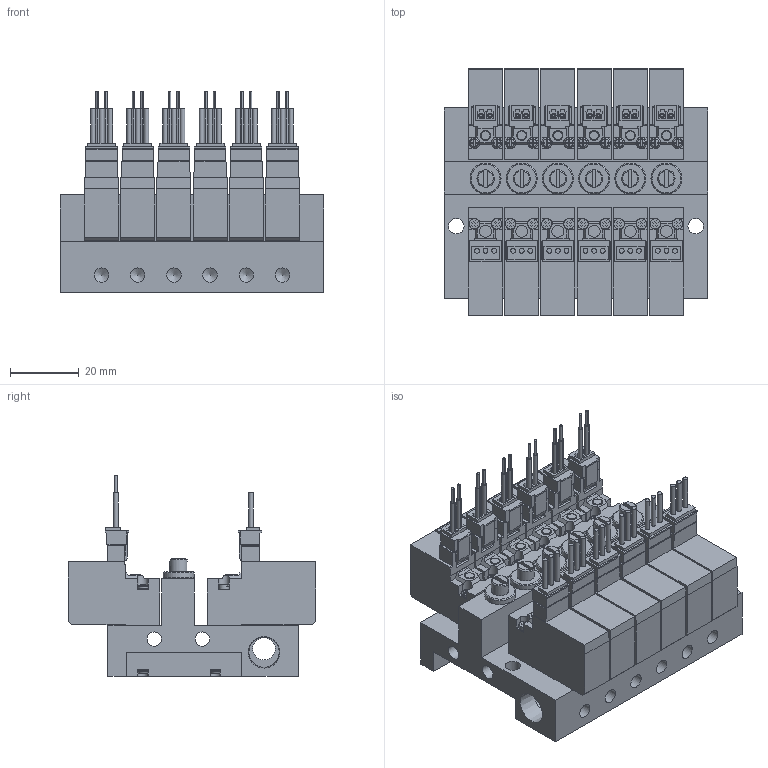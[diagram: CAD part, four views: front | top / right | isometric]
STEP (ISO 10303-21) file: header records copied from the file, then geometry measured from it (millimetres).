
FILE_DESCRIPTION(('STEP AP203'),'1');
FILE_NAME('1-L-4EZ-M06.stp','2025-05-09T01:26:20',(' '),(' '),'Spatial InterOp 3D',' ',' ');
FILE_SCHEMA(('CONFIG_CONTROL_DESIGN'));
Length unit declared in the file: millimetre
Products named in the file (68): PV1※1-L-4EZ-M06; BODY; PLATE; NEEDLE; BOLT; SOLENOID VALVE VOLTAGE PV; 42; 45; 48; 51; SOLENOID VALVE PV101-W
Assembly tree (67 placements, depth 3):
  PV1※1-L-4EZ-M06
    BODY
    PLATE
    PLATE
    NEEDLE
    BOLT
    BOLT
    BOLT
    BOLT
    BOLT
    BOLT
    SOLENOID VALVE VOLTAGE PV
      42
      45
      48
      51
    NEEDLE
    SOLENOID VALVE VOLTAGE PV
      42
      45
      48
      51
    NEEDLE
    SOLENOID VALVE VOLTAGE PV
      42
      45
      48
      51
    PLATE
    BOLT
    BOLT
    BOLT
    PLATE
    BOLT
    BOLT
    BOLT
    NEEDLE
    SOLENOID VALVE VOLTAGE PV
      42
      45
      48
      51
    NEEDLE
    SOLENOID VALVE VOLTAGE PV
      42
      45
      48
      51
    PLATE
    BOLT
    BOLT
    BOLT
    SOLENOID VALVE VOLTAGE PV
      42
      45
      48
      51
    NEEDLE
    PLATE
    BOLT
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Bounding box: 76.5 x 71.8 x 58.25 mm (x, y, z)
Volume: 125574.5 mm3; surface area: 64272.6 mm2
Topology: 61 solids, 61 shells, 2341 faces, 6536 edges, 4457 vertices
Faces by surface type: plane 1738, cylinder 409, torus 96, bspline 60, cone 38
Full cylindrical faces by diameter (mm): 1.4 x18, 2 x18, 3 x30, 3.5 x6, 4.2 x14, 4.5 x2, 5 x6, 6.5 x1, 8.797 x2, 9 x6
Entity records: 78348 total; most frequent: CARTESIAN_POINT 14255, DIRECTION 12692, ORIENTED_EDGE 12536, EDGE_CURVE 6268, VERTEX_POINT 4360, LINE 4266, VECTOR 4266, AXIS2_PLACEMENT_3D 4213
